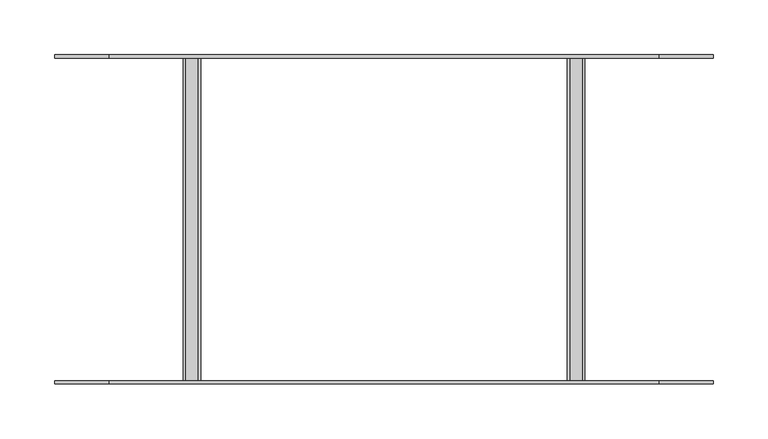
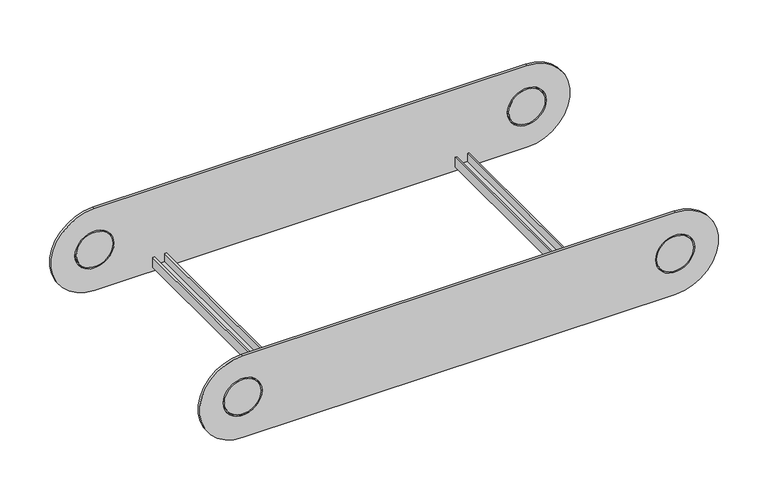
"""IFC4 building model written with IfcOpenShell, lengths in millimetres: cable carrier fitting geometry, BAKS_LDLS_BEND_Adjustable vertical bend element_ELDS : ELDST_H100."""

from ifc_helpers import new_model, si_unit, point, frame, frame_2d, origin, origin_2d, place, context, project, spatial, polyline, circle_curve, trimmed, segment, composite_curve, outline, extrude, source, transform, mapped, element, save


def cable_carrier_fitting_9e888601(model_context):
    return source(origin(), model_context, "Body", "SweptSolid", [
        extrude(outline(composite_curve([segment(polyline([(50.0, 500.0), (50.0, 0.0)]), True, "CONTINUOUS"), segment(trimmed(circle_curve(origin_2d(), 50.0), [point((50.0, 0.0))], [point((-50.0, 0.0))], False, "CARTESIAN"), True, "CONTINUOUS"), segment(polyline([(-50.0, 0.0), (-50.0, 500.0)]), True, "CONTINUOUS"), segment(trimmed(circle_curve(frame_2d((0.0, 500.0)), 50.0), [point((-50.0, 500.0))], [point((50.0, 500.0))], False, "CARTESIAN"), True, "CONTINUOUS")], self_intersect=False), holes=[composite_curve([segment(trimmed(circle_curve(origin_2d(), 22.5), [point((0.0, -22.5))], [point((0.0, 22.5))], True, "CARTESIAN"), True, "CONTINUOUS"), segment(trimmed(circle_curve(origin_2d(), 22.5), [point((0.0, 22.5))], [point((0.0, -22.5))], True, "CARTESIAN"), True, "CONTINUOUS")], self_intersect=False), composite_curve([segment(trimmed(circle_curve(frame_2d((0.0, 500.0)), 22.5), [point((0.0, 477.5))], [point((0.0, 522.5))], True, "CARTESIAN"), True, "CONTINUOUS"), segment(trimmed(circle_curve(frame_2d((0.0, 500.0)), 22.5), [point((0.0, 522.5))], [point((0.0, 477.5))], True, "CARTESIAN"), True, "CONTINUOUS")], self_intersect=False)]), frame((0.0, 147.0, 0.0), z_axis=(0.0, 1.0, 0.0), x_axis=(0.0, 0.0, 1.0)), (0.0, 0.0, 1.0), 3.0),
        extrude(outline(composite_curve([segment(trimmed(circle_curve(origin_2d(), 21.0), [point((0.0, -21.0))], [point((0.0, 21.0))], False, "CARTESIAN"), True, "CONTINUOUS"), segment(trimmed(circle_curve(origin_2d(), 21.0), [point((0.0, 21.0))], [point((0.0, -21.0))], False, "CARTESIAN"), True, "CONTINUOUS")], self_intersect=False)), frame((0.0, 147.0, 0.0), z_axis=(0.0, 1.0, 0.0), x_axis=(0.0, 0.0, 1.0)), (0.0, 0.0, 1.0), 3.0),
        extrude(outline(composite_curve([segment(trimmed(circle_curve(frame_2d((0.0, 500.0)), 21.0), [point((0.0, 479.0))], [point((0.0, 521.0))], False, "CARTESIAN"), True, "CONTINUOUS"), segment(trimmed(circle_curve(frame_2d((0.0, 500.0)), 21.0), [point((0.0, 521.0))], [point((0.0, 479.0))], False, "CARTESIAN"), True, "CONTINUOUS")], self_intersect=False)), frame((0.0, 147.0, 0.0), z_axis=(0.0, 1.0, 0.0), x_axis=(0.0, 0.0, 1.0)), (0.0, 0.0, 1.0), 3.0),
        extrude(outline(composite_curve([segment(polyline([(50.0, 500.0), (50.0, 0.0)]), True, "CONTINUOUS"), segment(trimmed(circle_curve(origin_2d(), 50.0), [point((50.0, 0.0))], [point((-50.0, 0.0))], False, "CARTESIAN"), True, "CONTINUOUS"), segment(polyline([(-50.0, 0.0), (-50.0, 500.0)]), True, "CONTINUOUS"), segment(trimmed(circle_curve(frame_2d((0.0, 500.0)), 50.0), [point((-50.0, 500.0))], [point((50.0, 500.0))], False, "CARTESIAN"), True, "CONTINUOUS")], self_intersect=False), holes=[composite_curve([segment(trimmed(circle_curve(origin_2d(), 22.5), [point((0.0, -22.5))], [point((0.0, 22.5))], True, "CARTESIAN"), True, "CONTINUOUS"), segment(trimmed(circle_curve(origin_2d(), 22.5), [point((0.0, 22.5))], [point((0.0, -22.5))], True, "CARTESIAN"), True, "CONTINUOUS")], self_intersect=False), composite_curve([segment(trimmed(circle_curve(frame_2d((0.0, 500.0)), 22.5), [point((0.0, 477.5))], [point((0.0, 522.5))], True, "CARTESIAN"), True, "CONTINUOUS"), segment(trimmed(circle_curve(frame_2d((0.0, 500.0)), 22.5), [point((0.0, 522.5))], [point((0.0, 477.5))], True, "CARTESIAN"), True, "CONTINUOUS")], self_intersect=False)]), frame((0.0, -150.0, 0.0), z_axis=(0.0, 1.0, 0.0), x_axis=(0.0, 0.0, 1.0)), (0.0, 0.0, 1.0), 3.0),
        extrude(outline(composite_curve([segment(trimmed(circle_curve(origin_2d(), 21.0), [point((0.0, -21.0))], [point((0.0, 21.0))], False, "CARTESIAN"), True, "CONTINUOUS"), segment(trimmed(circle_curve(origin_2d(), 21.0), [point((0.0, 21.0))], [point((0.0, -21.0))], False, "CARTESIAN"), True, "CONTINUOUS")], self_intersect=False)), frame((0.0, -150.0, 0.0), z_axis=(0.0, 1.0, 0.0), x_axis=(0.0, 0.0, 1.0)), (0.0, 0.0, 1.0), 3.0),
        extrude(outline(composite_curve([segment(trimmed(circle_curve(frame_2d((0.0, 500.0)), 21.0), [point((0.0, 479.0))], [point((0.0, 521.0))], False, "CARTESIAN"), True, "CONTINUOUS"), segment(trimmed(circle_curve(frame_2d((0.0, 500.0)), 21.0), [point((0.0, 521.0))], [point((0.0, 479.0))], False, "CARTESIAN"), True, "CONTINUOUS")], self_intersect=False)), frame((0.0, -150.0, 0.0), z_axis=(0.0, 1.0, 0.0), x_axis=(0.0, 0.0, 1.0)), (0.0, 0.0, 1.0), 3.0),
        extrude(outline(polyline([(-45.0, 417.0), (-45.0, 433.0), (-33.0, 433.0), (-33.0, 431.0), (-43.0, 431.0), (-43.0, 419.0), (-33.0, 419.0), (-33.0, 417.0), (-45.0, 417.0)])), frame((0.0, -147.0, 0.0), z_axis=(0.0, 1.0, 0.0), x_axis=(0.0, 0.0, 1.0)), (0.0, 0.0, 1.0), 294.0),
        extrude(outline(polyline([(-45.0, 67.0), (-45.0, 83.0), (-33.0, 83.0), (-33.0, 81.0), (-43.0, 81.0), (-43.0, 69.0), (-33.0, 69.0), (-33.0, 67.0), (-45.0, 67.0)])), frame((0.0, -147.0, 0.0), z_axis=(0.0, 1.0, 0.0), x_axis=(0.0, 0.0, 1.0)), (0.0, 0.0, 1.0), 294.0),
    ])


if __name__ == "__main__":
    model = new_model("IFC4")
    model_context = context("Model", 3, world=origin())
    ifc_project = project(units=[si_unit("LENGTHUNIT", "METRE", prefix="MILLI")], contexts=[model_context])
    site = spatial("IfcSite", under=ifc_project)
    building = spatial("IfcBuilding", under=site)
    placement = place(None, origin())
    cable_carrier_fitting_shape = cable_carrier_fitting_9e888601(model_context)
    element("IfcCableCarrierFitting", 1, ObjectType="BAKS_LDLS_BEND_Adjustable vertical bend element_ELDS : ELDST_H100", at=placement, inside=building, context=model_context, shape_type="MappedRepresentation", body=[
        mapped(cable_carrier_fitting_shape, transform((0.0, 0.0, 0.0), x_axis=(1.0, 0.0, 0.0), y_axis=(0.0, 1.0, 0.0), z_axis=(0.0, 0.0, 1.0))),
    ])
    save(model, "model.ifc")
